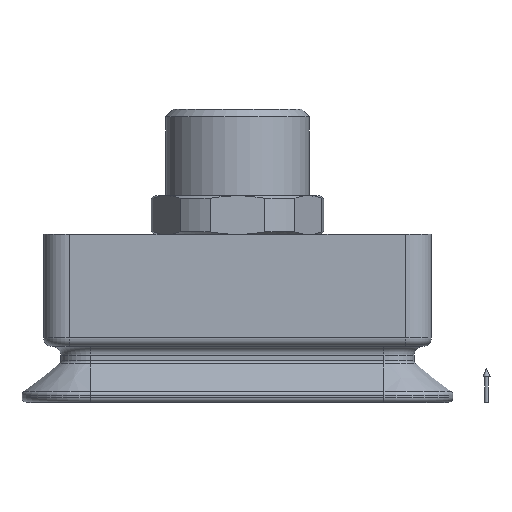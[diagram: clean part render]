
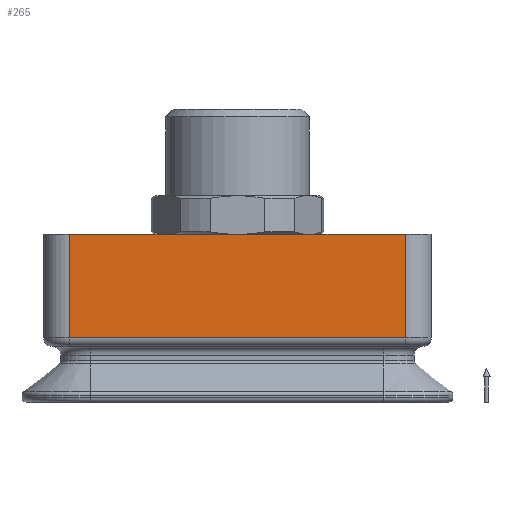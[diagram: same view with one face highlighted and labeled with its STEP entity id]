
A CAD part, front view. The second image highlights one B-rep face of the part: STEP entity #265.
In plain terms, the highlighted planar face has unit normal (0, -1, 0).
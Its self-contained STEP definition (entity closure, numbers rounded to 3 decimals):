
#265=ADVANCED_FACE('',(#587),#588,.T.);
#587=FACE_OUTER_BOUND('',#965,.T.);
#588=PLANE('',#966);
#965=EDGE_LOOP('',(#1661,#1662,#1663,#1664,#1665,#1666));
#966=AXIS2_PLACEMENT_3D('',#1667,#1668,#1669);
#1661=ORIENTED_EDGE('',*,*,#2366,.T.);
#1662=ORIENTED_EDGE('',*,*,#2274,.T.);
#1663=ORIENTED_EDGE('',*,*,#2414,.T.);
#1664=ORIENTED_EDGE('',*,*,#2391,.F.);
#1665=ORIENTED_EDGE('',*,*,#2415,.T.);
#1666=ORIENTED_EDGE('',*,*,#2411,.T.);
#1667=CARTESIAN_POINT('',(0.0,-7.5,7.5));
#1668=DIRECTION('',(0.0,-1.0,0.0));
#1669=DIRECTION('',(0.0,0.0,-1.0));
#2274=EDGE_CURVE('',#2735,#2736,#2737,.T.);
#2366=EDGE_CURVE('',#2857,#2735,#2858,.T.);
#2391=EDGE_CURVE('',#2898,#2893,#2900,.T.);
#2411=EDGE_CURVE('',#2927,#2857,#2928,.T.);
#2414=EDGE_CURVE('',#2736,#2893,#2931,.T.);
#2415=EDGE_CURVE('',#2898,#2927,#2932,.T.);
#2735=VERTEX_POINT('',#3335);
#2736=VERTEX_POINT('',#3336);
#2737=LINE('',#3337,#3338);
#2857=VERTEX_POINT('',#3649);
#2858=LINE('',#3650,#3651);
#2893=VERTEX_POINT('',#3696);
#2898=VERTEX_POINT('',#3702);
#2900=LINE('',#3704,#3705);
#2927=VERTEX_POINT('',#3742);
#2928=LINE('',#3743,#3744);
#2931=LINE('',#3747,#3748);
#2932=LINE('',#3749,#3750);
#3335=CARTESIAN_POINT('',(5.831,-7.5,19.5));
#3336=CARTESIAN_POINT('',(-5.831,-7.5,19.5));
#3337=CARTESIAN_POINT('',(-19.5,-7.5,19.5));
#3338=VECTOR('',#4171,1.0);
#3649=CARTESIAN_POINT('',(19.5,-7.5,19.5));
#3650=CARTESIAN_POINT('',(-19.5,-7.5,19.5));
#3651=VECTOR('',#4273,1.0);
#3696=CARTESIAN_POINT('',(-19.5,-7.5,19.5));
#3702=CARTESIAN_POINT('',(-19.5,-7.5,7.5));
#3704=CARTESIAN_POINT('',(-19.5,-7.5,7.5));
#3705=VECTOR('',#4315,1.0);
#3742=CARTESIAN_POINT('',(19.5,-7.5,7.5));
#3743=CARTESIAN_POINT('',(19.5,-7.5,7.5));
#3744=VECTOR('',#4335,1.0);
#3747=CARTESIAN_POINT('',(-19.5,-7.5,19.5));
#3748=VECTOR('',#4339,1.0);
#3749=CARTESIAN_POINT('',(-19.5,-7.5,7.5));
#3750=VECTOR('',#4340,1.0);
#4171=DIRECTION('',(-1.0,-0.0,-0.0));
#4273=DIRECTION('',(-1.0,-0.0,-0.0));
#4315=DIRECTION('',(0.0,0.0,1.0));
#4335=DIRECTION('',(0.0,0.0,1.0));
#4339=DIRECTION('',(-1.0,-0.0,-0.0));
#4340=DIRECTION('',(1.0,0.,0.));
